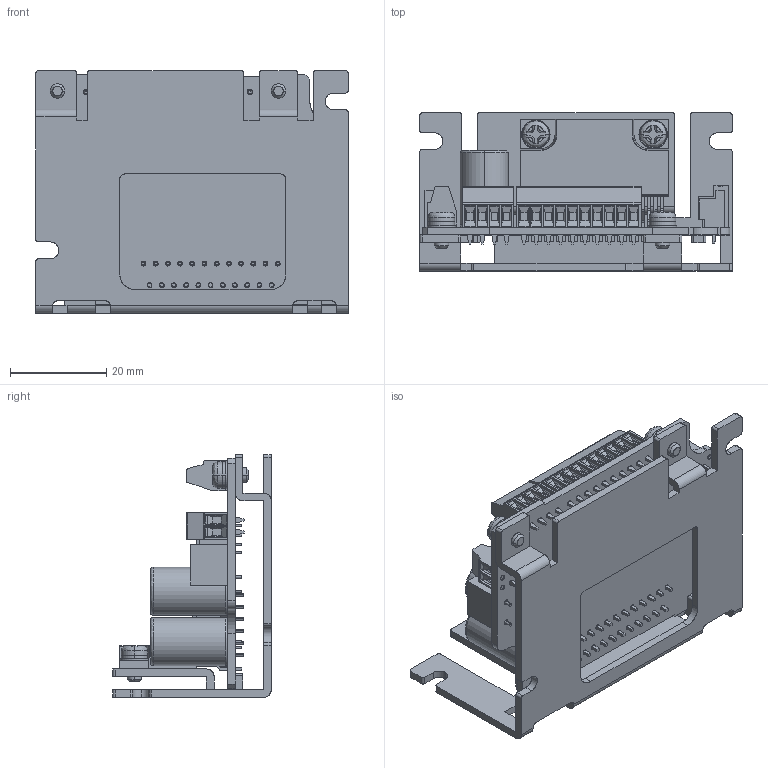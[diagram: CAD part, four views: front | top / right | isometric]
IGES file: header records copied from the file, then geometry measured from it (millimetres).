
Start section: SolidWorks IGES file using analytic representation for surfaces
Bounding box: 65 x 33 x 50.5 mm (x, y, z)
Surface area: 24169 mm2 (no closed solid volume)
Topology: 0 solids, 0 shells, 1600 faces, 16217 edges, 16217 vertices
Faces by surface type: bspline 1027, revolution 573
